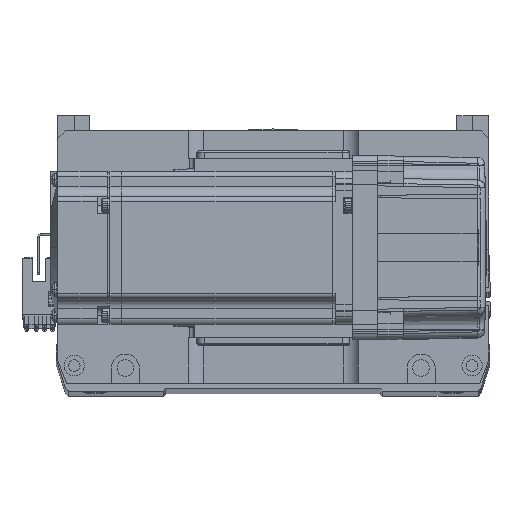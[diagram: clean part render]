
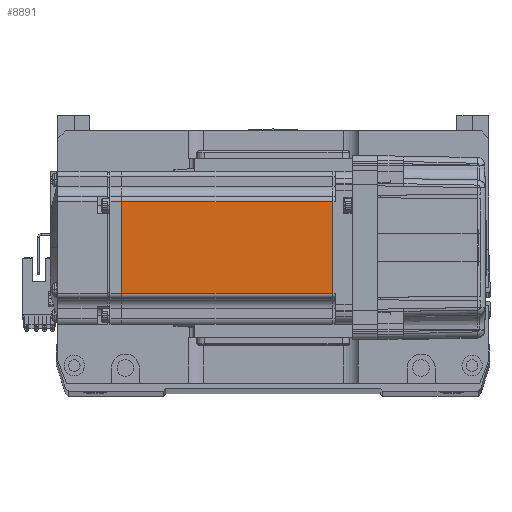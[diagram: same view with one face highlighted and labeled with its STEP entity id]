
A CAD part, top view. The second image highlights one B-rep face of the part: STEP entity #8891.
In plain terms, the highlighted planar face has unit normal (0, 0, 1).
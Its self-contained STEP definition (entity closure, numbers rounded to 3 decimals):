
#14 = ORIENTED_EDGE ( 'NONE', *, *, #31307, .T. ) ;
#1156 = CARTESIAN_POINT ( 'NONE',  ( -90.45, 18., 30. ) ) ;
#4575 = DIRECTION ( 'NONE',  ( -1., 0., 0. ) ) ;
#4821 = CARTESIAN_POINT ( 'NONE',  ( -6.5, -25., 30. ) ) ;
#5054 = DIRECTION ( 'NONE',  ( 1., 0., 0. ) ) ;
#7300 = CARTESIAN_POINT ( 'NONE',  ( -7.75, 18., 30. ) ) ;
#8891 = ADVANCED_FACE ( 'NONE', ( #12594 ), #13932, .T. ) ;
#9555 = VECTOR ( 'NONE', #42550, 1000. ) ;
#11538 = VERTEX_POINT ( 'NONE', #7300 ) ;
#12594 = FACE_OUTER_BOUND ( 'NONE', #23818, .T. ) ;
#13159 = VERTEX_POINT ( 'NONE', #27876 ) ;
#13932 = PLANE ( 'NONE',  #60972 ) ;
#14104 = LINE ( 'NONE', #59618, #44939 ) ;
#21868 = ORIENTED_EDGE ( 'NONE', *, *, #62290, .T. ) ;
#23818 = EDGE_LOOP ( 'NONE', ( #63770, #21868, #14, #40223 ) ) ;
#26886 = DIRECTION ( 'NONE',  ( 0., -1., 0. ) ) ;
#27876 = CARTESIAN_POINT ( 'NONE',  ( -7.75, -18., 30. ) ) ;
#31307 = EDGE_CURVE ( 'NONE', #43760, #33985, #31610, .T. ) ;
#31610 = LINE ( 'NONE', #47019, #37825 ) ;
#33985 = VERTEX_POINT ( 'NONE', #41478 ) ;
#34164 = LINE ( 'NONE', #48348, #35732 ) ;
#35732 = VECTOR ( 'NONE', #4575, 1000. ) ;
#35825 = LINE ( 'NONE', #52389, #9555 ) ;
#37825 = VECTOR ( 'NONE', #47242, 1000. ) ;
#40223 = ORIENTED_EDGE ( 'NONE', *, *, #43070, .F. ) ;
#41478 = CARTESIAN_POINT ( 'NONE',  ( -90.45, -18., 30. ) ) ;
#42550 = DIRECTION ( 'NONE',  ( -1., 0., 0. ) ) ;
#43070 = EDGE_CURVE ( 'NONE', #13159, #33985, #34164, .T. ) ;
#43760 = VERTEX_POINT ( 'NONE', #1156 ) ;
#44939 = VECTOR ( 'NONE', #26886, 1000. ) ;
#47019 = CARTESIAN_POINT ( 'NONE',  ( -90.45, 0., 30. ) ) ;
#47242 = DIRECTION ( 'NONE',  ( 0., -1., 0. ) ) ;
#48348 = CARTESIAN_POINT ( 'NONE',  ( -6.5, -18., 30. ) ) ;
#51701 = EDGE_CURVE ( 'NONE', #11538, #13159, #14104, .T. ) ;
#52389 = CARTESIAN_POINT ( 'NONE',  ( -6.5, 18., 30. ) ) ;
#54386 = DIRECTION ( 'NONE',  ( 0., 0., 1. ) ) ;
#59618 = CARTESIAN_POINT ( 'NONE',  ( -7.75, 0., 30. ) ) ;
#60972 = AXIS2_PLACEMENT_3D ( 'NONE', #4821, #54386, #5054 ) ;
#62290 = EDGE_CURVE ( 'NONE', #11538, #43760, #35825, .T. ) ;
#63770 = ORIENTED_EDGE ( 'NONE', *, *, #51701, .F. ) ;
